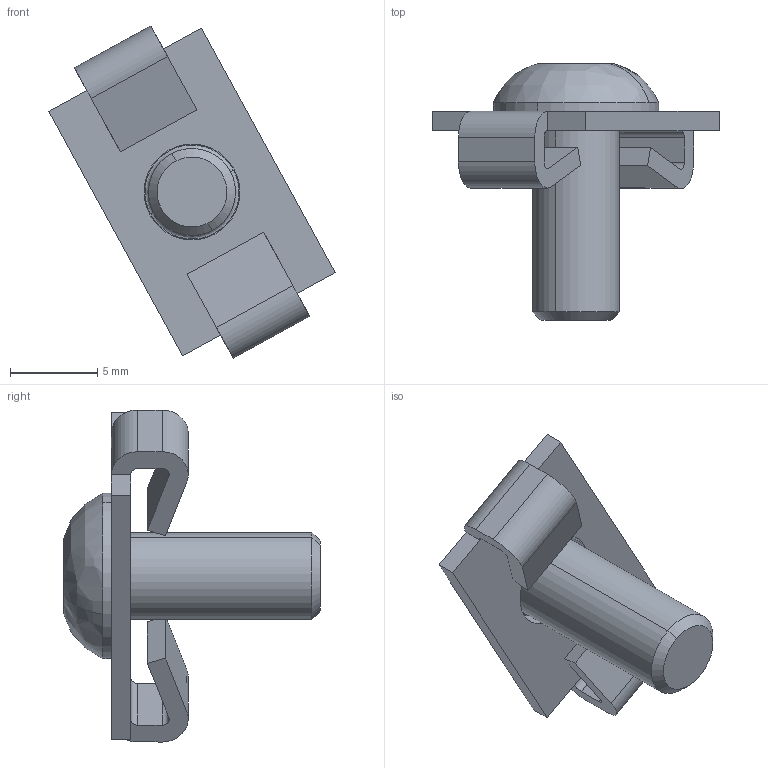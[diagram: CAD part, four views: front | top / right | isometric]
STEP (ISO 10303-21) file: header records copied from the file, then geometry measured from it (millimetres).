
FILE_DESCRIPTION (( 'STEP AP203' ), '1' );
FILE_NAME ('ZENSTZ5.STEP', '2018-05-28T08:59:13', ( '' ), ( '' ), 'SwSTEP 2.0', 'SolidWorks 2017', '' );
FILE_SCHEMA (( 'CONFIG_CONTROL_DESIGN' ));
Length unit declared in the file: millimetre
Products named in the file (3): 30030_ZENSTZ5; Linsenkopfschraube M5x12; ZENSTZ5
Assembly tree (2 placements, depth 2):
  ZENSTZ5
    30030_ZENSTZ5
    Linsenkopfschraube M5x12
Bounding box: 16.45 x 14.75 x 19.07 mm (x, y, z)
Volume: 607.9 mm3; surface area: 940 mm2
Topology: 2 solids, 2 shells, 52 faces, 128 edges, 82 vertices
Faces by surface type: plane 32, cylinder 14, bspline 4, cone 2
Entity records: 1885 total; most frequent: CARTESIAN_POINT 333, DIRECTION 272, ORIENTED_EDGE 256, EDGE_CURVE 128, AXIS2_PLACEMENT_3D 93, LINE 86, VECTOR 86, VERTEX_POINT 82
